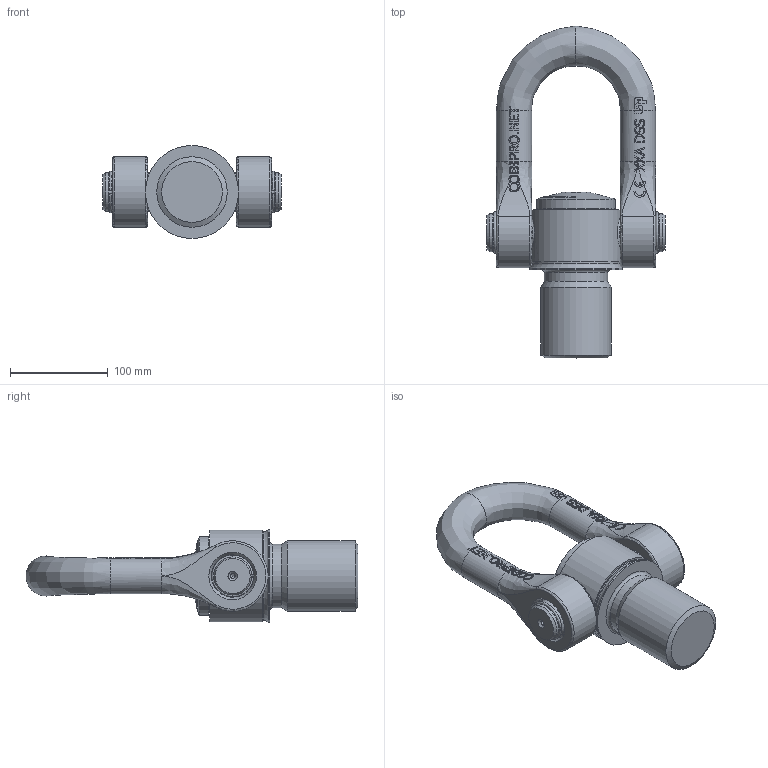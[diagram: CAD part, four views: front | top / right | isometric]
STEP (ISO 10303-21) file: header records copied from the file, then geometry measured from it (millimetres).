
FILE_DESCRIPTION(/* description */ (''),/* implementation_level */ '2;1');
FILE_NAME(/* name */ 'W:\CODIPRO\DOCUMENTS\Plans A NE PAS DIFFUSER !!!\Fichier STEP Modelisé\Gamme UP\Produits UP\DSS UP\DSS M72 UP.stp',/* time_stamp */ '2017-09-20T08:53:28+02:00',/* author */ ('rklenes'),/* organization */ (''),/* preprocessor_version */ 'ST-DEVELOPER v16.5',/* originating_system */ 'Autodesk Inventor 2017',/* authorisation */ '');
FILE_SCHEMA (('AUTOMOTIVE_DESIGN { 1 0 10303 214 3 1 1 }'));
Length unit declared in the file: millimetre
Products named in the file (7): DSS M72 UP; DSS_N4BISX64; DSM_N4X64; DSM_N4; DIN 7993 - A 40; DSA_M56X140_UP; Manchon DSS M72
Assembly tree (7 placements, depth 3):
  DSS M72 UP
    DSS_N4BISX64
      DSM_N4X64
      DSM_N4
      DIN 7993 - A 40  x2
    DSA_M56X140_UP
    Manchon DSS M72
Bounding box: 182 x 339 x 95 mm (x, y, z)
Volume: 1637918.4 mm3; surface area: 231690.1 mm2
Topology: 6 solids, 6 shells, 858 faces, 2349 edges, 1556 vertices
Faces by surface type: plane 371, bspline 322, cylinder 83, cone 64, torus 18
Full cylindrical faces by diameter (mm): 4 x1, 4.917 x2, 36 x2, 39 x4, 40.2 x2, 48.964 x1, 56 x4, 56.2 x1, 64 x3, 64.64 x1, 72 x1, 80 x1, 90 x1, 95 x1
Entity records: 33577 total; most frequent: CARTESIAN_POINT 14129, ORIENTED_EDGE 4532, DIRECTION 3023, EDGE_CURVE 2266, VERTEX_POINT 1537, AXIS2_PLACEMENT_3D 1046, EDGE_LOOP 977, LINE 931
